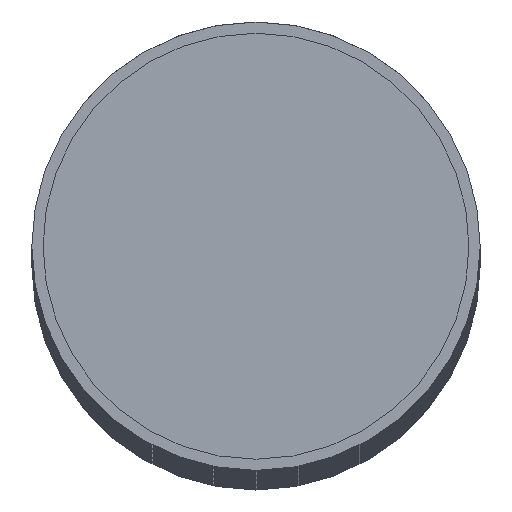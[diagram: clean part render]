
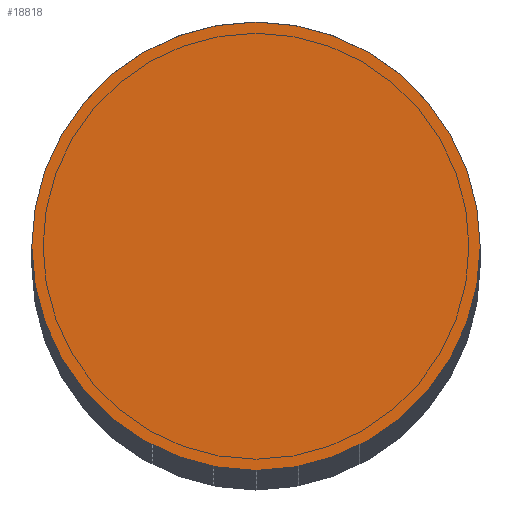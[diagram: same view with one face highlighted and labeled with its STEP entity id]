
A CAD part, top view. The second image highlights one B-rep face of the part: STEP entity #18818.
In plain terms, the highlighted planar face has unit normal (0, 0, 1).
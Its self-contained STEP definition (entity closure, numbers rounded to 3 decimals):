
#6026=CARTESIAN_POINT('',(0.0,0.0,501.0));
#6027=DIRECTION('',(0.0,0.0,1.0));
#6028=DIRECTION('',(1.0,0.0,0.0));
#6029=AXIS2_PLACEMENT_3D('',#6026,#6027,#6028);
#6030=CIRCLE('',#6029,10.0);
#6031=CARTESIAN_POINT('',(10.0,0.0,501.0));
#6032=VERTEX_POINT('',#6031);
#6033=EDGE_CURVE('',#6032,#6032,#6030,.T.);
#18810=CARTESIAN_POINT('',(0.0,0.0,501.0));
#18811=DIRECTION('',(0.0,0.0,1.0));
#18812=DIRECTION('',(1.0,0.0,0.0));
#18813=AXIS2_PLACEMENT_3D('',#18810,#18811,#18812);
#18814=PLANE('',#18813);
#18815=ORIENTED_EDGE('',*,*,#6033,.T.);
#18816=EDGE_LOOP('',(#18815));
#18817=FACE_OUTER_BOUND('',#18816,.T.);
#18818=ADVANCED_FACE('',(#18817),#18814,.T.);
